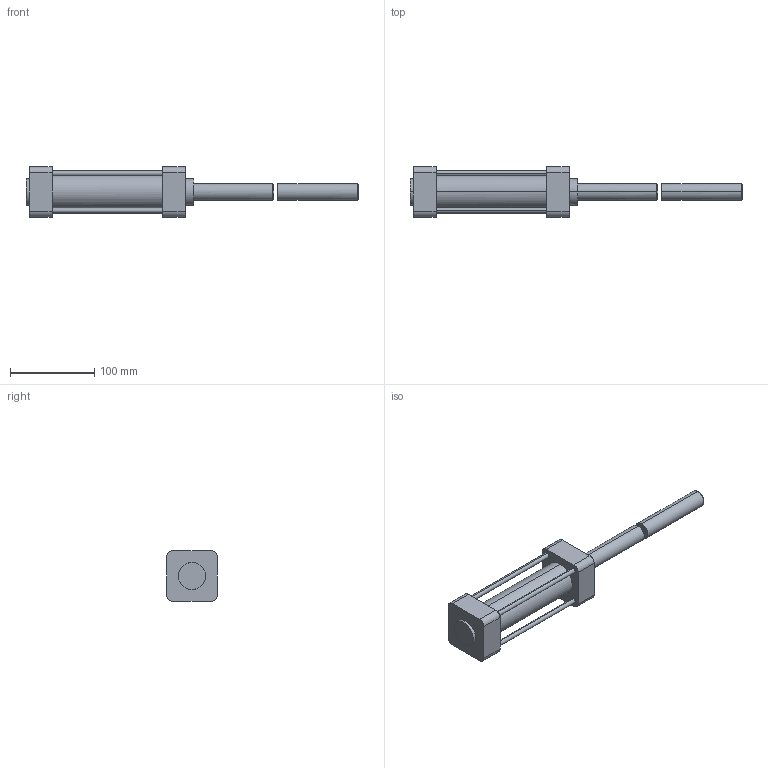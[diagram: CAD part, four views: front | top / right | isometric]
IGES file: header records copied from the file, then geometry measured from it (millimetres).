
Global section: file name: E:\UnigraphicsGraphicData\MISUMI_PRESS-PARTS\IGES\3d_lthct40-100_04295_r00.igs; native system: NX V5.0; preprocessor: UGS NX IGES V5.0; author: MISUMI; date: 20110105.161246; units: millimetre
Bounding box: 394 x 60 x 60 mm (x, y, z)
Surface area: 64695.9 mm2 (no closed solid volume)
Topology: 0 solids, 0 shells, 71 faces, 584 edges, 584 vertices
Faces by surface type: bspline 71
